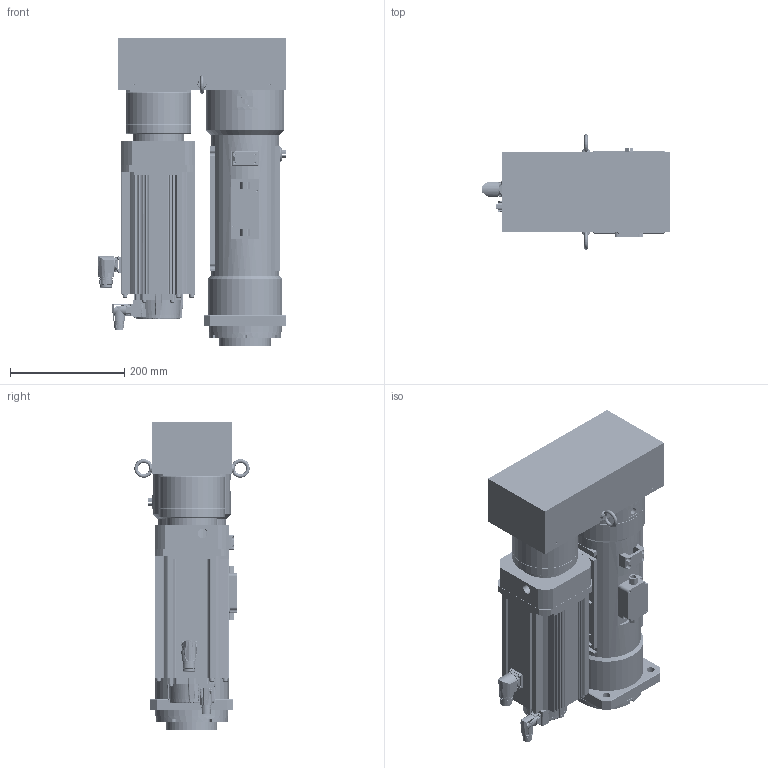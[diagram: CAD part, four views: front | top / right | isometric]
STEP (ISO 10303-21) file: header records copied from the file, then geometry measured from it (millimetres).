
FILE_DESCRIPTION( ('This file contains a STEP AP42 implementation' ,'as created by ZW3D STEP Interface translator.') ,'2;1' );
FILE_NAME( 'OACIS-DC-P060-P070-150-155-A6V400_V20.51.stp' ,'26 428.145639', (''), ('ZWCAD Software Co.'), 'Version 1.0', 'ZW3D to STEP translator', '' );
FILE_SCHEMA(('AUTOMOTIVE_DESIGN { 1 0 10303 214 1 1 1 1 }'));
Length unit declared in the file: millimetre
Products named in the file (1): 0
Bounding box: 331 x 202.25 x 541 mm (x, y, z)
Volume: 11468693.7 mm3; surface area: 1830304.3 mm2
Topology: 55 solids, 58 shells, 3800 faces, 9759 edges, 6251 vertices
Faces by surface type: cylinder 1808, plane 1459, cone 368, torus 108, bspline 45, sphere 12
Full cylindrical faces by diameter (mm): 1.25 x12, 1.567 x4, 2 x1, 2.232 x6, 2.459 x1, 2.8 x1, 3.242 x3, 3.3 x58, 4.2 x4, 4.3 x15, 4.5 x14, 4.917 x20, 5 x1, 5.3 x4, 5.5 x5, 6 x12, 6.647 x6, 6.8 x41, 7 x4, 8 x21, 8.4 x8, 8.5 x4, 9 x26, 9.5 x4, 9.78 x8, 10 x7, 10.104 x4, 10.106 x1, 10.2 x16, 10.5 x4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
Entity records: 134478 total; most frequent: CARTESIAN_POINT 32267, DIRECTION 21335, ORIENTED_EDGE 19270, EDGE_CURVE 9677, AXIS2_PLACEMENT_3D 8415, VERTEX_POINT 6260, CIRCLE 4646, VECTOR 4505
